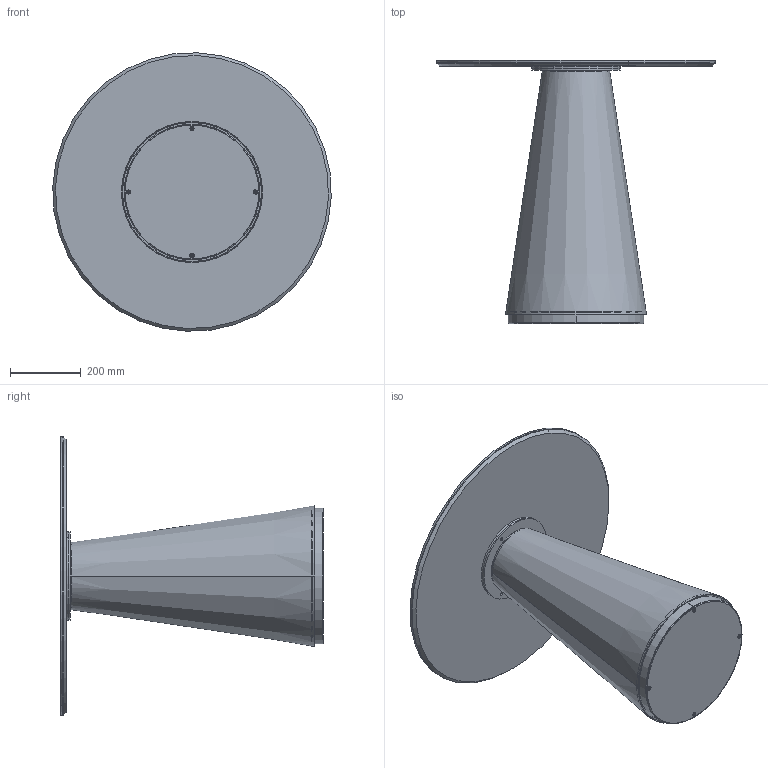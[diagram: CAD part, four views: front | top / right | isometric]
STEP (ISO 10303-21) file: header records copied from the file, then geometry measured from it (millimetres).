
FILE_DESCRIPTION (( 'STEP AP203' ), '1' );
FILE_NAME ('TE20C.STEP', '2024-08-08T07:52:23', ( '' ), ( '' ), 'SwSTEP 2.0', 'SolidWorks 2022', '' );
FILE_SCHEMA (( 'CONFIG_CONTROL_DESIGN' ));
Length unit declared in the file: millimetre
Products named in the file (10): Assieme BASE TED; TED000000PIA-00-TED PIASTRA SOPRA; KXXCXX-00-Piani Rotondi in ceramica CON PIASTRA_K12P PIANO CERAMICA D.79cm; TED000000TCONO-00-TED CONO; TED000000BAS_01-00-TED PIASTRA; TE20C; P0000003-00-STAFFA DI FISSAGGIO DIAMETRO 250_P0000003-250mm normale; M6xXXmm_HEX_M6x20mm HEX; K1XCMXX-00-Piani Rotondi in ceramica_D.790; M6xXXmm_HEX_M6x40mm HEX
Assembly tree (15 placements, depth 3):
  TE20C
    KXXCXX-00-Piani Rotondi in ceramica CON PIASTRA_K12P PIANO CERAMICA D.79cm
      K1XCMXX-00-Piani Rotondi in ceramica_D.790
      P0000003-00-STAFFA DI FISSAGGIO DIAMETRO 250_P0000003-250mm normale
    Assieme BASE TED
      TED000000BAS_01-00-TED PIASTRA
      TED000000PIA-00-TED PIASTRA SOPRA
      TED000000TCONO-00-TED CONO
      M6xXXmm_HEX_M6x20mm HEX  x4
      M6xXXmm_HEX_M6x40mm HEX  x4
Bounding box: 789.44 x 745.5 x 789.44 mm (x, y, z)
Volume: 9442749.2 mm3; surface area: 3896840.2 mm2
Topology: 16 solids, 16 shells, 376 faces, 791 edges, 440 vertices
Faces by surface type: plane 179, cylinder 115, cone 62, torus 20
Entity records: 6125 total; most frequent: DIRECTION 983, CARTESIAN_POINT 801, ORIENTED_EDGE 758, AXIS2_PLACEMENT_3D 412, EDGE_CURVE 379, VERTEX_POINT 230, EDGE_LOOP 227, CIRCLE 220
